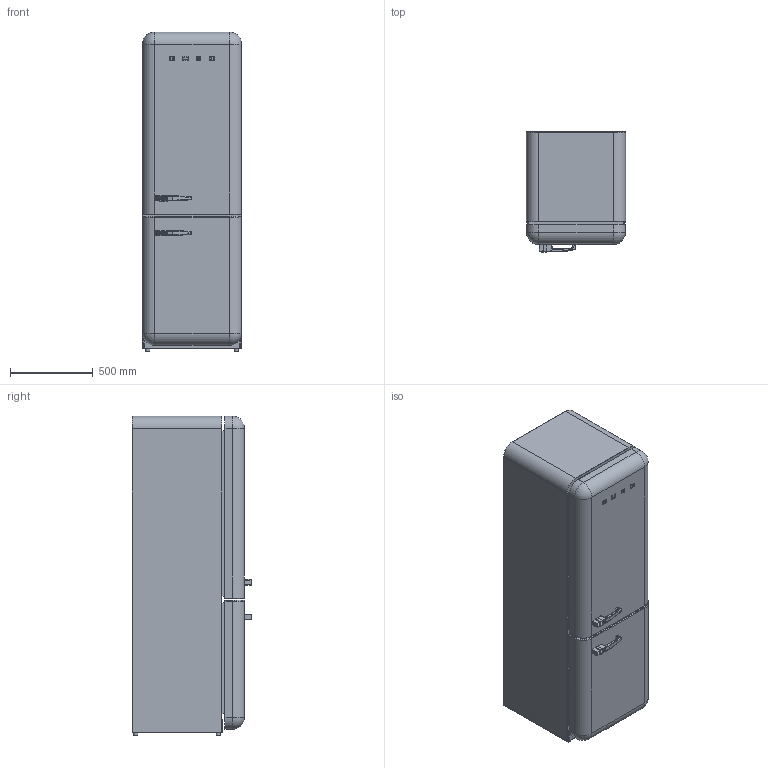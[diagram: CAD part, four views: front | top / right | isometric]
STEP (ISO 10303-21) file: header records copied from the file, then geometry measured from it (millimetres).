
FILE_DESCRIPTION((''),'1');
FILE_NAME('C:/Users/bertoni_g/Desktop/fab 32 new.stp','2014-12-10T10:53:53',(''),(''),'Spatial Interop R20 SP1','Kubotek KeyCreator V9.0.3 (16864)',' ');
FILE_SCHEMA(('automotive_design'));
Length unit declared in the file: millimetre
Products named in the file (13): Senza Nome[10]
Bounding box: 600 x 724.88 x 1933.5 mm (x, y, z)
Volume: 752476255.8 mm3; surface area: 8964185.8 mm2
Topology: 13 solids, 13 shells, 564 faces, 1439 edges, 884 vertices
Faces by surface type: cylinder 204, plane 183, bspline 84, cone 62, sphere 19, torus 12
Full cylindrical faces by diameter (mm): 25 x4
Entity records: 44515 total; most frequent: CARTESIAN_POINT 17239, ORIENTED_EDGE 2816, DIRECTION 2649, PRESENTATION_STYLE_ASSIGNMENT 2562, COLOUR_RGB 2562, STYLED_ITEM 1985, CURVE_STYLE 1985, DRAUGHTING_PRE_DEFINED_CURVE_FONT 1985
